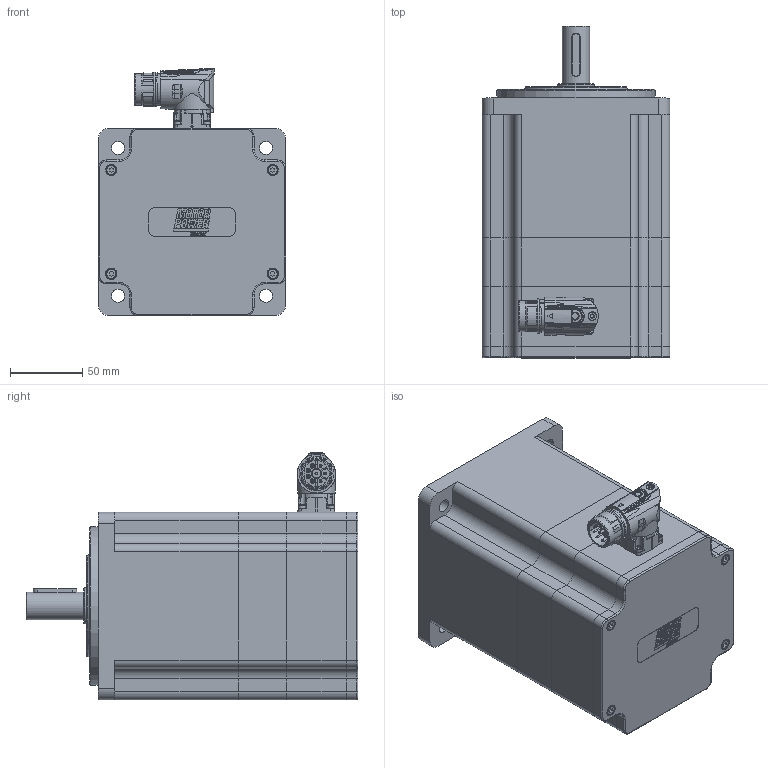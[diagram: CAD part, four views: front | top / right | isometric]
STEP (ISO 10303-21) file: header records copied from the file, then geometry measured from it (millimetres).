
FILE_DESCRIPTION(/* description */ ('Unknown'),/* implementation_level */ '2;1');
FILE_NAME(/* name */ 'TC4-130.5F.XX.X. 3.M1.1.1.C21 Q0C601',/* time_stamp */ '2026-03-05T12:03:13+01:00',/* author */ ('Unknown'),/* organization */ ('Unknown'),/* preprocessor_version */ 'ST-DEVELOPER v19.4',/* originating_system */ 'Solid Edge',/* authorisation */ 'Unknown');
FILE_SCHEMA (('AUTOMOTIVE_DESIGN {1 0 10303 214 3 1 1}'));
Length unit declared in the file: millimetre
Products named in the file (13): Q0C601 5F M1 FRENO VUOTO; 005911000185; 005119002009; 003155002232; 005911000432; 003251022006; 005113000500; 003103040233; 005911000252; 007117000456; Albero TC4 130 5A A22; Corpo TC4-130 5F; Coperchio campana TC4-130 V8
Assembly tree (23 placements, depth 2):
  Q0C601 5F M1 FRENO VUOTO
    005911000185  x4
    005119002009
    003155002232
    005911000432  x6
    003251022006
    005113000500
    003103040233
    005911000252  x4
    007117000456
    Albero TC4 130 5A A22
    Corpo TC4-130 5F
    Coperchio campana TC4-130 V8
Bounding box: 130 x 230 x 171.5 mm (x, y, z)
Volume: 1088323.7 mm3; surface area: 337337.7 mm2
Topology: 25 solids, 25 shells, 1595 faces, 3998 edges, 2564 vertices
Faces by surface type: plane 750, cylinder 399, bspline 182, cone 142, torus 96, sphere 26
Full cylindrical faces by diameter (mm): 1 x4, 1.4 x4, 2 x4, 2.013 x8, 2.459 x2, 2.5 x4, 2.8 x4, 3 x8, 3.242 x40, 4 x11, 4.134 x8, 4.5 x15, 4.7 x4, 4.917 x2, 5.5 x5, 5.8 x1, 5.9 x1, 6 x1, 6.8 x1, 7 x10, 8 x14, 10 x5, 16 x1, 17.4 x1, 19 x2, 19.9 x1, 20 x2, 21 x1, 21.15 x2, 21.6 x1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
Entity records: 53132 total; most frequent: CARTESIAN_POINT 14112, ORIENTED_EDGE 6494, DIRECTION 6250, EDGE_CURVE 3247, AXIS2_PLACEMENT_3D 2324, VERTEX_POINT 2264, FACE_BOUND 1925, EDGE_LOOP 1897
